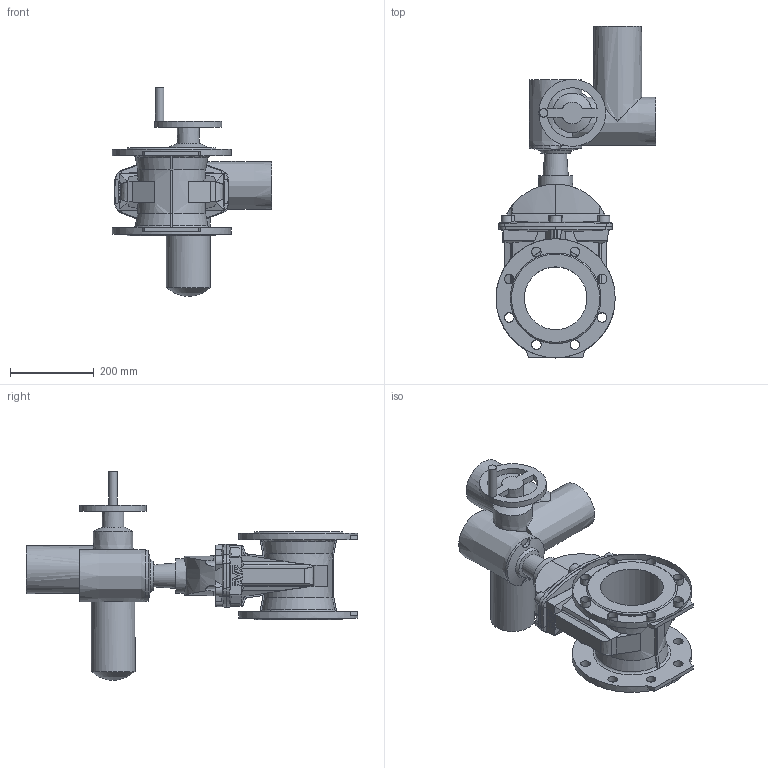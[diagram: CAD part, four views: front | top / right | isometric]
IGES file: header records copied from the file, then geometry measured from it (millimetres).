
Start section: SolidWorks IGES file using analytic representation for surfaces
Global section: file name: \\avksan2\techshare\PBM outline export from Enovia\O_15_42_DN150_X1XXX099_SA07.6_AA0.igs; native system: SolidWorks 2012; preprocessor: SolidWorks 2012; author: pbm; date: 170320.133739; units: inch
Bounding box: 382.5 x 793.5 x 499 mm (x, y, z)
Surface area: 932277.5 mm2 (no closed solid volume)
Topology: 0 solids, 0 shells, 358 faces, 2161 edges, 2101 vertices
Faces by surface type: revolution 180, bspline 178
